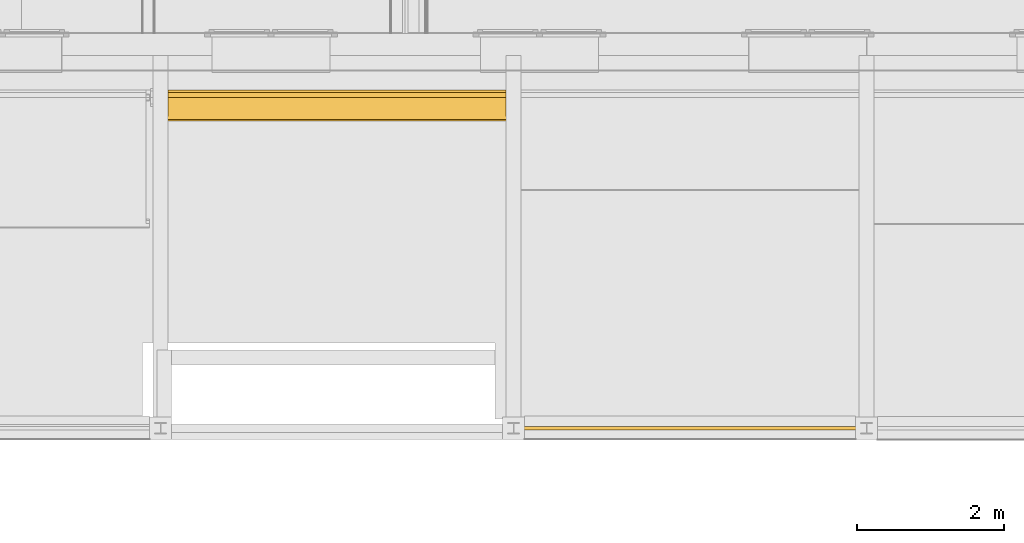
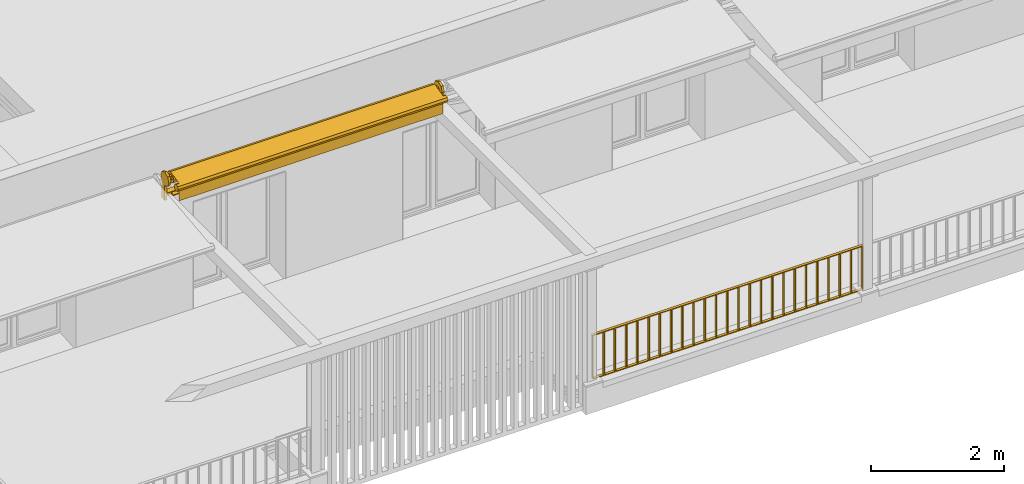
# One storey, part 23 of 36: 1 railing, 1 shading device.
"""IFC4 building model written with IfcOpenShell, lengths in millimetres."""

from ifc_helpers import new_model, entity, si_unit, converted_unit, derived_unit, direction, frame, origin_with_axes, place, context, subcontext, project, spatial, polygons, material, constituent, constituent_set, type_object, element, save


model = new_model("IFC4")

# Units and contexts
model_context = context("Model", 3, precision=0.01, world=origin_with_axes(), true_north=direction((0.0, 1.0)))
body_context = subcontext(model_context, "Body", "Model", "MODEL_VIEW")
ifc_project = project(units=[si_unit("LENGTHUNIT", "METRE", prefix="MILLI"), si_unit("AREAUNIT", "SQUARE_METRE"), si_unit("VOLUMEUNIT", "CUBIC_METRE"), converted_unit("PLANEANGLEUNIT", "DEGREE", entity("IfcPlaneAngleMeasure", 0.0174532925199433), si_unit("PLANEANGLEUNIT", "RADIAN"), dimensions=[0, 0, 0, 0, 0, 0, 0]), converted_unit("TIMEUNIT", "Year", entity("IfcTimeMeasure", 31557600.0), si_unit("TIMEUNIT", "SECOND"), dimensions=[0, 0, 1, 0, 0, 0, 0]), si_unit("MASSUNIT", "GRAM", prefix="KILO"), si_unit("THERMODYNAMICTEMPERATUREUNIT", "DEGREE_CELSIUS"), si_unit("LUMINOUSINTENSITYUNIT", "LUMEN"), si_unit("ENERGYUNIT", "JOULE", prefix="MEGA"), derived_unit("THERMALCONDUCTANCEUNIT", [(si_unit("POWERUNIT", "WATT"), 1), (si_unit("LENGTHUNIT", "METRE"), -1), (si_unit("THERMODYNAMICTEMPERATUREUNIT", "KELVIN"), -1)]), derived_unit("SPECIFICHEATCAPACITYUNIT", [(si_unit("ENERGYUNIT", "JOULE"), 1), (si_unit("MASSUNIT", "GRAM", prefix="KILO"), -1), (si_unit("THERMODYNAMICTEMPERATUREUNIT", "KELVIN"), -1)]), derived_unit("MASSDENSITYUNIT", [(si_unit("MASSUNIT", "GRAM", prefix="KILO"), 1), (si_unit("VOLUMEUNIT", "CUBIC_METRE"), -1)])], contexts=[model_context])

# Site, building, storey
site_placement = place(None, origin_with_axes())
site = spatial("IfcSite", under=ifc_project, at=site_placement, Name="Gelände", CompositionType="ELEMENT")
building_placement = place(site_placement, origin_with_axes())
building = spatial("IfcBuilding", under=site, at=building_placement, Name="Gebäude", CompositionType="ELEMENT")
storey_placement = place(building_placement, frame((0.0, 0.0, 8700.0), z_axis=(0.0, 0.0, 1.0), x_axis=(1.0, 0.0, 0.0)))
storey = spatial("IfcBuildingStorey", under=building, at=storey_placement, Name="Attika", CompositionType="ELEMENT", Elevation=8700.0)

# Railing
ifc_material = material(Name="Stahl")
ifc_constituent_1 = constituent(ifc_material, Name="Stahl 1")
ifc_constituent_2 = constituent(ifc_material, Name="Stahl 2")
ifc_constituent_3 = constituent(ifc_material, Name="Stahl 3")
ifc_constituent_4 = constituent(ifc_material, Name="Stahl 4")
ifc_constituent_5 = constituent(ifc_material, Name="Stahl 5")
ifc_constituent_6 = constituent(ifc_material, Name="Stahl 6")
ifc_constituent_7 = constituent(ifc_material, Name="Stahl 7")
ifc_constituent_8 = constituent(ifc_material, Name="Stahl 8")
ifc_constituent_9 = constituent(ifc_material, Name="Stahl 9")
ifc_constituent_10 = constituent(ifc_material, Name="Stahl 10")
ifc_constituent_11 = constituent(ifc_material, Name="Stahl 11")
ifc_constituent_12 = constituent(ifc_material, Name="Stahl 12")
ifc_constituent_13 = constituent(ifc_material, Name="Stahl 13")
ifc_constituent_14 = constituent(ifc_material, Name="Stahl 14")
ifc_constituent_15 = constituent(ifc_material, Name="Stahl 15")
ifc_constituent_16 = constituent(ifc_material, Name="Stahl 16")
ifc_constituent_17 = constituent(ifc_material, Name="Stahl 17")
ifc_constituent_18 = constituent(ifc_material, Name="Stahl 18")
ifc_constituent_19 = constituent(ifc_material, Name="Stahl 19")
ifc_constituent_20 = constituent(ifc_material, Name="Stahl 20")
ifc_constituent_21 = constituent(ifc_material, Name="Stahl 21")
ifc_constituent_22 = constituent(ifc_material, Name="Stahl 22")
ifc_constituent_23 = constituent(ifc_material, Name="Stahl 23")
ifc_constituent_24 = constituent(ifc_material, Name="Stahl 24")
ifc_constituent_25 = constituent(ifc_material, Name="Stahl 25")
ifc_constituent_26 = constituent(ifc_material, Name="Stahl 26")
ifc_constituent_27 = constituent(ifc_material, Name="Stahl 27")
ifc_constituent_28 = constituent(ifc_material, Name="Stahl 28")
ifc_constituent_29 = constituent(ifc_material, Name="Stahl 29")
ifc_constituent_set = constituent_set(constituents=[ifc_constituent_1, ifc_constituent_2, ifc_constituent_3, ifc_constituent_4, ifc_constituent_5, ifc_constituent_6, ifc_constituent_7, ifc_constituent_8, ifc_constituent_9, ifc_constituent_10, ifc_constituent_11, ifc_constituent_12, ifc_constituent_13, ifc_constituent_14, ifc_constituent_15, ifc_constituent_16, ifc_constituent_17, ifc_constituent_18, ifc_constituent_19, ifc_constituent_20, ifc_constituent_21, ifc_constituent_22, ifc_constituent_23, ifc_constituent_24, ifc_constituent_25, ifc_constituent_26, ifc_constituent_27, ifc_constituent_28, ifc_constituent_29])
railing_type = type_object("IfcRailingType", Name="Geländerart", PredefinedType="NOTDEFINED")
railing_placement = place(storey_placement, frame((5767.336356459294, 21097.59674077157, 519.9999999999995), z_axis=(0.0, 0.0, 1.0), x_axis=(1.0, 0.0, 0.0)))
element("IfcRailing", 1, at=railing_placement, inside=storey, type_object=railing_type, material=ifc_constituent_set, Name="Geländer-003", PredefinedType="NOTDEFINED", context=body_context, shape_type="Tessellation", body=[
    polygons([(196.5594620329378, -19.99999999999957, 0.0), (196.5594620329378, 19.99999999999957, 0.0), (196.5594620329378, 19.99999999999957, 800.0000000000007), (196.5594620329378, -19.99999999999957, 800.0000000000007), (181.5594620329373, -19.99999999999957, 0.0), (181.5594620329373, 19.99999999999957, 0.0), (181.5594620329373, 19.99999999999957, 800.0000000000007), (181.5594620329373, -19.99999999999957, 800.0000000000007)], [[[1, 2, 3, 4]], [[1, 5, 6, 2]], [[2, 6, 7, 3]], [[4, 3, 7, 8]], [[5, 1, 4, 8]], [[6, 5, 8, 7]]], closed=True),
    polygons([(189.0594620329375, 22.50000000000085, 800.0000000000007), (189.0594620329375, 22.50000000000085, 785.0000000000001), (181.5594620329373, 22.50000000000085, 785.0000000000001), (181.5594620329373, 22.50000000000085, 800.0000000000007), (189.0594620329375, -22.50000000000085, 800.0000000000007), (189.0594620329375, -22.50000000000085, 785.0000000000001), (181.5594620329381, -22.50000000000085, 785.0000000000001), (181.5594620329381, -22.50000000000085, 800.0000000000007)], [[[1, 2, 3, 4]], [[1, 5, 6, 2]], [[2, 6, 7, 3]], [[4, 3, 7, 8]], [[5, 1, 4, 8]], [[6, 5, 8, 7]]], closed=True),
    polygons([(4887.359462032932, -19.99999999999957, 0.0), (4887.359462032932, 19.99999999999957, 0.0), (4887.359462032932, 19.99999999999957, 800.0000000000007), (4887.359462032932, -19.99999999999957, 800.0000000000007), (4872.359462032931, -19.99999999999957, 0.0), (4872.359462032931, 19.99999999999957, 0.0), (4872.359462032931, 19.99999999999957, 800.0000000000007), (4872.359462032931, -19.99999999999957, 800.0000000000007)], [[[1, 2, 3, 4]], [[1, 5, 6, 2]], [[2, 6, 7, 3]], [[4, 3, 7, 8]], [[5, 1, 4, 8]], [[6, 5, 8, 7]]], closed=True),
    polygons([(4879.859462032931, -22.50000000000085, 800.0000000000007), (4879.859462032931, -22.50000000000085, 785.0000000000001), (4887.359462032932, -22.50000000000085, 785.0000000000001), (4887.359462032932, -22.50000000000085, 800.0000000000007), (4879.859462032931, 22.50000000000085, 800.0000000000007), (4879.859462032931, 22.50000000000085, 785.0000000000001), (4887.359462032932, 22.50000000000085, 785.0000000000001), (4887.359462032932, 22.50000000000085, 800.0000000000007)], [[[1, 2, 3, 4]], [[1, 5, 6, 2]], [[2, 6, 7, 3]], [[4, 3, 7, 8]], [[5, 1, 4, 8]], [[6, 5, 8, 7]]], closed=True),
    polygons([(189.0594620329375, -22.50000000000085, 0.9999999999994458), (189.0594620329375, -22.50000000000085, -13.99999999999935), (4879.859462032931, -22.50000000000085, -13.99999999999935), (4879.859462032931, -22.50000000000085, 0.9999999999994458), (189.0594620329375, 22.50000000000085, 0.9999999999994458), (189.0594620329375, 22.50000000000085, -13.99999999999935), (4879.859462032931, 22.50000000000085, -13.99999999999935), (4879.859462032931, 22.50000000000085, 0.9999999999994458)], [[[1, 2, 3, 4]], [[1, 5, 6, 2]], [[2, 6, 7, 3]], [[4, 3, 7, 8]], [[5, 1, 4, 8]], [[6, 5, 8, 7]]], closed=True),
    polygons([(189.0594620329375, -22.50000000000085, 800.0000000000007), (189.0594620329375, -22.50000000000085, 785.0000000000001), (4879.859462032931, -22.50000000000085, 785.0000000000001), (4879.859462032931, -22.50000000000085, 800.0000000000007), (189.0594620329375, 22.50000000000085, 800.0000000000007), (189.0594620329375, 22.50000000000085, 785.0000000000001), (4879.859462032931, 22.50000000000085, 785.0000000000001), (4879.859462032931, 22.50000000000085, 800.0000000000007)], [[[1, 2, 3, 4]], [[1, 5, 6, 2]], [[2, 6, 7, 3]], [[4, 3, 7, 8]], [[5, 1, 4, 8]], [[6, 5, 8, 7]]], closed=True),
    polygons([(392.009462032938, -22.50000000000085, 0.0), (392.009462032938, 22.50000000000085, 0.0), (392.009462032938, 22.50000000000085, 785.2293691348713), (392.009462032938, -22.50000000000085, 785.2293691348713), (377.0094620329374, -22.50000000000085, 0.0), (377.0094620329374, 22.50000000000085, 0.0), (377.0094620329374, 22.50000000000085, 785.2293691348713), (377.0094620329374, -22.50000000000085, 785.2293691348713)], [[[1, 2, 3, 4]], [[1, 5, 6, 2]], [[2, 6, 7, 3]], [[4, 3, 7, 8]], [[5, 1, 4, 8]], [[6, 5, 8, 7]]], closed=True),
    polygons([(587.4594620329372, -22.50000000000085, 0.0), (587.4594620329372, 22.50000000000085, 0.0), (587.4594620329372, 22.50000000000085, 785.2293691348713), (587.4594620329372, -22.50000000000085, 785.2293691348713), (572.4594620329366, -22.50000000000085, 0.0), (572.4594620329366, 22.50000000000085, 0.0), (572.4594620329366, 22.50000000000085, 785.2293691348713), (572.4594620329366, -22.50000000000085, 785.2293691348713)], [[[1, 2, 3, 4]], [[1, 5, 6, 2]], [[2, 6, 7, 3]], [[4, 3, 7, 8]], [[5, 1, 4, 8]], [[6, 5, 8, 7]]], closed=True),
    polygons([(782.9094620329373, -22.50000000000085, 0.0), (782.9094620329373, 22.50000000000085, 0.0), (782.9094620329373, 22.50000000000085, 785.2293691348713), (782.9094620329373, -22.50000000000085, 785.2293691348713), (767.9094620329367, -22.50000000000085, 0.0), (767.9094620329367, 22.50000000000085, 0.0), (767.9094620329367, 22.50000000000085, 785.2293691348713), (767.9094620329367, -22.50000000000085, 785.2293691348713)], [[[1, 2, 3, 4]], [[1, 5, 6, 2]], [[2, 6, 7, 3]], [[4, 3, 7, 8]], [[5, 1, 4, 8]], [[6, 5, 8, 7]]], closed=True),
    polygons([(978.3594620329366, -22.50000000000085, 0.0), (978.3594620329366, 22.50000000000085, 0.0), (978.3594620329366, 22.50000000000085, 785.2293691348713), (978.3594620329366, -22.50000000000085, 785.2293691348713), (963.359462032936, -22.50000000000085, 0.0), (963.359462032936, 22.50000000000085, 0.0), (963.359462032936, 22.50000000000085, 785.2293691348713), (963.359462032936, -22.50000000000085, 785.2293691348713)], [[[1, 2, 3, 4]], [[1, 5, 6, 2]], [[2, 6, 7, 3]], [[4, 3, 7, 8]], [[5, 1, 4, 8]], [[6, 5, 8, 7]]], closed=True),
    polygons([(1173.809462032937, -22.50000000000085, 0.0), (1173.809462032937, 22.50000000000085, 0.0), (1173.809462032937, 22.50000000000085, 785.2293691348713), (1173.809462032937, -22.50000000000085, 785.2293691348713), (1158.809462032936, -22.50000000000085, 0.0), (1158.809462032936, 22.50000000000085, 0.0), (1158.809462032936, 22.50000000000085, 785.2293691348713), (1158.809462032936, -22.50000000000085, 785.2293691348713)], [[[1, 2, 3, 4]], [[1, 5, 6, 2]], [[2, 6, 7, 3]], [[4, 3, 7, 8]], [[5, 1, 4, 8]], [[6, 5, 8, 7]]], closed=True),
    polygons([(1369.259462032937, -22.50000000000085, 0.0), (1369.259462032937, 22.50000000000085, 0.0), (1369.259462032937, 22.50000000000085, 785.2293691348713), (1369.259462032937, -22.50000000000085, 785.2293691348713), (1354.259462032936, -22.50000000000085, 0.0), (1354.259462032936, 22.50000000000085, 0.0), (1354.259462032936, 22.50000000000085, 785.2293691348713), (1354.259462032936, -22.50000000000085, 785.2293691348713)], [[[1, 2, 3, 4]], [[1, 5, 6, 2]], [[2, 6, 7, 3]], [[4, 3, 7, 8]], [[5, 1, 4, 8]], [[6, 5, 8, 7]]], closed=True),
    polygons([(1564.709462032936, -22.50000000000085, 0.0), (1564.709462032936, 22.50000000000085, 0.0), (1564.709462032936, 22.50000000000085, 785.2293691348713), (1564.709462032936, -22.50000000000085, 785.2293691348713), (1549.709462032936, -22.50000000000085, 0.0), (1549.709462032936, 22.50000000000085, 0.0), (1549.709462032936, 22.50000000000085, 785.2293691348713), (1549.709462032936, -22.50000000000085, 785.2293691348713)], [[[1, 2, 3, 4]], [[1, 5, 6, 2]], [[2, 6, 7, 3]], [[4, 3, 7, 8]], [[5, 1, 4, 8]], [[6, 5, 8, 7]]], closed=True),
    polygons([(1760.159462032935, -22.50000000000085, 0.0), (1760.159462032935, 22.50000000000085, 0.0), (1760.159462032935, 22.50000000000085, 785.2293691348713), (1760.159462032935, -22.50000000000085, 785.2293691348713), (1745.159462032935, -22.50000000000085, 0.0), (1745.159462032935, 22.50000000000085, 0.0), (1745.159462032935, 22.50000000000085, 785.2293691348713), (1745.159462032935, -22.50000000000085, 785.2293691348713)], [[[1, 2, 3, 4]], [[1, 5, 6, 2]], [[2, 6, 7, 3]], [[4, 3, 7, 8]], [[5, 1, 4, 8]], [[6, 5, 8, 7]]], closed=True),
    polygons([(1955.609462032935, -22.50000000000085, 0.0), (1955.609462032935, 22.50000000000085, 0.0), (1955.609462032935, 22.50000000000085, 785.2293691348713), (1955.609462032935, -22.50000000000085, 785.2293691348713), (1940.609462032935, -22.50000000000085, 0.0), (1940.609462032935, 22.50000000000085, 0.0), (1940.609462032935, 22.50000000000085, 785.2293691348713), (1940.609462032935, -22.50000000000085, 785.2293691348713)], [[[1, 2, 3, 4]], [[1, 5, 6, 2]], [[2, 6, 7, 3]], [[4, 3, 7, 8]], [[5, 1, 4, 8]], [[6, 5, 8, 7]]], closed=True),
    polygons([(2151.059462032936, -22.50000000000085, 0.0), (2151.059462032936, 22.50000000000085, 0.0), (2151.059462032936, 22.50000000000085, 785.2293691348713), (2151.059462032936, -22.50000000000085, 785.2293691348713), (2136.059462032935, -22.50000000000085, 0.0), (2136.059462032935, 22.50000000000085, 0.0), (2136.059462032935, 22.50000000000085, 785.2293691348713), (2136.059462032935, -22.50000000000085, 785.2293691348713)], [[[1, 2, 3, 4]], [[1, 5, 6, 2]], [[2, 6, 7, 3]], [[4, 3, 7, 8]], [[5, 1, 4, 8]], [[6, 5, 8, 7]]], closed=True),
    polygons([(2346.509462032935, -22.50000000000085, 0.0), (2346.509462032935, 22.50000000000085, 0.0), (2346.509462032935, 22.50000000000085, 785.2293691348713), (2346.509462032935, -22.50000000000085, 785.2293691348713), (2331.509462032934, -22.50000000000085, 0.0), (2331.509462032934, 22.50000000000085, 0.0), (2331.509462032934, 22.50000000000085, 785.2293691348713), (2331.509462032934, -22.50000000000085, 785.2293691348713)], [[[1, 2, 3, 4]], [[1, 5, 6, 2]], [[2, 6, 7, 3]], [[4, 3, 7, 8]], [[5, 1, 4, 8]], [[6, 5, 8, 7]]], closed=True),
    polygons([(2541.959462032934, -22.50000000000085, 0.0), (2541.959462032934, 22.50000000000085, 0.0), (2541.959462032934, 22.50000000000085, 785.2293691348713), (2541.959462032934, -22.50000000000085, 785.2293691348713), (2526.959462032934, -22.50000000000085, 0.0), (2526.959462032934, 22.50000000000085, 0.0), (2526.959462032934, 22.50000000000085, 785.2293691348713), (2526.959462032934, -22.50000000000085, 785.2293691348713)], [[[1, 2, 3, 4]], [[1, 5, 6, 2]], [[2, 6, 7, 3]], [[4, 3, 7, 8]], [[5, 1, 4, 8]], [[6, 5, 8, 7]]], closed=True),
    polygons([(2737.409462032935, -22.50000000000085, 0.0), (2737.409462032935, 22.50000000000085, 0.0), (2737.409462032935, 22.50000000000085, 785.2293691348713), (2737.409462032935, -22.50000000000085, 785.2293691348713), (2722.409462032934, -22.50000000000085, 0.0), (2722.409462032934, 22.50000000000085, 0.0), (2722.409462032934, 22.50000000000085, 785.2293691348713), (2722.409462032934, -22.50000000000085, 785.2293691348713)], [[[1, 2, 3, 4]], [[1, 5, 6, 2]], [[2, 6, 7, 3]], [[4, 3, 7, 8]], [[5, 1, 4, 8]], [[6, 5, 8, 7]]], closed=True),
    polygons([(2932.859462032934, -22.50000000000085, 0.0), (2932.859462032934, 22.50000000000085, 0.0), (2932.859462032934, 22.50000000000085, 785.2293691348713), (2932.859462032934, -22.50000000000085, 785.2293691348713), (2917.859462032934, -22.50000000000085, 0.0), (2917.859462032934, 22.50000000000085, 0.0), (2917.859462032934, 22.50000000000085, 785.2293691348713), (2917.859462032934, -22.50000000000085, 785.2293691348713)], [[[1, 2, 3, 4]], [[1, 5, 6, 2]], [[2, 6, 7, 3]], [[4, 3, 7, 8]], [[5, 1, 4, 8]], [[6, 5, 8, 7]]], closed=True),
    polygons([(3128.309462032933, -22.50000000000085, 0.0), (3128.309462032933, 22.50000000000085, 0.0), (3128.309462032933, 22.50000000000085, 785.2293691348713), (3128.309462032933, -22.50000000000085, 785.2293691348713), (3113.309462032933, -22.50000000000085, 0.0), (3113.309462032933, 22.50000000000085, 0.0), (3113.309462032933, 22.50000000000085, 785.2293691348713), (3113.309462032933, -22.50000000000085, 785.2293691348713)], [[[1, 2, 3, 4]], [[1, 5, 6, 2]], [[2, 6, 7, 3]], [[4, 3, 7, 8]], [[5, 1, 4, 8]], [[6, 5, 8, 7]]], closed=True),
    polygons([(3323.759462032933, -22.50000000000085, 0.0), (3323.759462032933, 22.50000000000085, 0.0), (3323.759462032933, 22.50000000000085, 785.2293691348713), (3323.759462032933, -22.50000000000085, 785.2293691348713), (3308.759462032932, -22.50000000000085, 0.0), (3308.759462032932, 22.50000000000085, 0.0), (3308.759462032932, 22.50000000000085, 785.2293691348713), (3308.759462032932, -22.50000000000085, 785.2293691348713)], [[[1, 2, 3, 4]], [[1, 5, 6, 2]], [[2, 6, 7, 3]], [[4, 3, 7, 8]], [[5, 1, 4, 8]], [[6, 5, 8, 7]]], closed=True),
    polygons([(3519.209462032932, -22.50000000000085, 0.0), (3519.209462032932, 22.50000000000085, 0.0), (3519.209462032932, 22.50000000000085, 785.2293691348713), (3519.209462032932, -22.50000000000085, 785.2293691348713), (3504.209462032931, -22.50000000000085, 0.0), (3504.209462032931, 22.50000000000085, 0.0), (3504.209462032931, 22.50000000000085, 785.2293691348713), (3504.209462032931, -22.50000000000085, 785.2293691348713)], [[[1, 2, 3, 4]], [[1, 5, 6, 2]], [[2, 6, 7, 3]], [[4, 3, 7, 8]], [[5, 1, 4, 8]], [[6, 5, 8, 7]]], closed=True),
    polygons([(3714.659462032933, -22.50000000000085, 0.0), (3714.659462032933, 22.50000000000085, 0.0), (3714.659462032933, 22.50000000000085, 785.2293691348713), (3714.659462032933, -22.50000000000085, 785.2293691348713), (3699.659462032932, -22.50000000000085, 0.0), (3699.659462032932, 22.50000000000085, 0.0), (3699.659462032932, 22.50000000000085, 785.2293691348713), (3699.659462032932, -22.50000000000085, 785.2293691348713)], [[[1, 2, 3, 4]], [[1, 5, 6, 2]], [[2, 6, 7, 3]], [[4, 3, 7, 8]], [[5, 1, 4, 8]], [[6, 5, 8, 7]]], closed=True),
    polygons([(3910.109462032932, -22.50000000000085, 0.0), (3910.109462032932, 22.50000000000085, 0.0), (3910.109462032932, 22.50000000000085, 785.2293691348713), (3910.109462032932, -22.50000000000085, 785.2293691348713), (3895.109462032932, -22.50000000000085, 0.0), (3895.109462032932, 22.50000000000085, 0.0), (3895.109462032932, 22.50000000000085, 785.2293691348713), (3895.109462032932, -22.50000000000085, 785.2293691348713)], [[[1, 2, 3, 4]], [[1, 5, 6, 2]], [[2, 6, 7, 3]], [[4, 3, 7, 8]], [[5, 1, 4, 8]], [[6, 5, 8, 7]]], closed=True),
    polygons([(4105.559462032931, -22.50000000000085, 0.0), (4105.559462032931, 22.50000000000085, 0.0), (4105.559462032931, 22.50000000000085, 785.2293691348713), (4105.559462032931, -22.50000000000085, 785.2293691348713), (4090.559462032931, -22.50000000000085, 0.0), (4090.559462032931, 22.50000000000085, 0.0), (4090.559462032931, 22.50000000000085, 785.2293691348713), (4090.559462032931, -22.50000000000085, 785.2293691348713)], [[[1, 2, 3, 4]], [[1, 5, 6, 2]], [[2, 6, 7, 3]], [[4, 3, 7, 8]], [[5, 1, 4, 8]], [[6, 5, 8, 7]]], closed=True),
    polygons([(4301.009462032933, -22.50000000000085, 0.0), (4301.009462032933, 22.50000000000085, 0.0), (4301.009462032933, 22.50000000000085, 785.2293691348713), (4301.009462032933, -22.50000000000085, 785.2293691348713), (4286.009462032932, -22.50000000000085, 0.0), (4286.009462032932, 22.50000000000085, 0.0), (4286.009462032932, 22.50000000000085, 785.2293691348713), (4286.009462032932, -22.50000000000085, 785.2293691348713)], [[[1, 2, 3, 4]], [[1, 5, 6, 2]], [[2, 6, 7, 3]], [[4, 3, 7, 8]], [[5, 1, 4, 8]], [[6, 5, 8, 7]]], closed=True),
    polygons([(4496.459462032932, -22.50000000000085, 0.0), (4496.459462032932, 22.50000000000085, 0.0), (4496.459462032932, 22.50000000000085, 785.2293691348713), (4496.459462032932, -22.50000000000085, 785.2293691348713), (4481.459462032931, -22.50000000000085, 0.0), (4481.459462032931, 22.50000000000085, 0.0), (4481.459462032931, 22.50000000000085, 785.2293691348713), (4481.459462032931, -22.50000000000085, 785.2293691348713)], [[[1, 2, 3, 4]], [[1, 5, 6, 2]], [[2, 6, 7, 3]], [[4, 3, 7, 8]], [[5, 1, 4, 8]], [[6, 5, 8, 7]]], closed=True),
    polygons([(4691.909462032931, -22.50000000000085, 0.0), (4691.909462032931, 22.50000000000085, 0.0), (4691.909462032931, 22.50000000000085, 785.2293691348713), (4691.909462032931, -22.50000000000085, 785.2293691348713), (4676.909462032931, -22.50000000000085, 0.0), (4676.909462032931, 22.50000000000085, 0.0), (4676.909462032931, 22.50000000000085, 785.2293691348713), (4676.909462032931, -22.50000000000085, 785.2293691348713)], [[[1, 2, 3, 4]], [[1, 5, 6, 2]], [[2, 6, 7, 3]], [[4, 3, 7, 8]], [[5, 1, 4, 8]], [[6, 5, 8, 7]]], closed=True),
])

# Shading device
shading_device_type = type_object("IfcShadingDeviceType", Name="Sonnensegel 27", PredefinedType="NOTDEFINED")
shading_device_placement = place(storey_placement, frame((1115.595818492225, 25686.08652644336, 2849.999999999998), z_axis=(0.0, 0.0, 1.0), x_axis=(1.0, 0.0, 0.0)))
element("IfcShadingDevice", 2, at=shading_device_placement, inside=storey, type_object=shading_device_type, Name="Möbel-018", PredefinedType="NOTDEFINED", context=body_context, shape_type="Tessellation", body=[
    polygons([(4740.79999999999, -135.3553390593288, 335.3553390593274), (50.0, -135.3553390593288, 335.3553390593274), (50.0, -150.0000000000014, 300.0), (4740.79999999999, -150.0000000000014, 300.0), (4740.79999999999, -100.0000000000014, 350.0), (50.0, -100.0000000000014, 350.0), (50.0, -64.64466094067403, 335.3553390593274), (50.0, -50.00000000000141, 300.0), (50.0, -64.64466094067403, 264.6446609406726), (50.0, -100.0000000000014, 250.0), (50.0, -135.3553390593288, 264.6446609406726), (4740.79999999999, -135.3553390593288, 264.6446609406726), (4740.79999999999, -100.0000000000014, 250.0), (4740.79999999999, -64.64466094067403, 264.6446609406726), (4740.79999999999, -50.00000000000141, 300.0), (4740.79999999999, -64.64466094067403, 335.3553390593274)], [[[1, 2, 3, 4]], [[5, 6, 2, 1]], [[3, 2, 6, 7, 8, 9, 10, 11]], [[4, 3, 11, 12]], [[4, 12, 13, 14, 15, 16, 5, 1]], [[16, 7, 6, 5]], [[15, 8, 7, 16]], [[14, 9, 8, 15]], [[13, 10, 9, 14]], [[12, 11, 10, 13]]], closed=True),
    polygons([(4690.79999999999, -170.7106781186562, 370.7106781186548), (100.0, -170.7106781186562, 370.7106781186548), (100.0, -200.0000000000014, 300.0), (4690.79999999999, -200.0000000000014, 300.0), (4690.79999999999, -100.0000000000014, 400.0), (100.0, -100.0000000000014, 400.0), (100.0, -29.28932188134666, 370.7106781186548), (100.0, 0.0, 300.0), (100.0, -29.28932188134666, 229.2893218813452), (100.0, -100.0000000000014, 199.9999999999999), (100.0, -170.7106781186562, 229.2893218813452), (4690.79999999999, -170.7106781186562, 229.2893218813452), (4690.79999999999, -100.0000000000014, 199.9999999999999), (4690.79999999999, -29.28932188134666, 229.2893218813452), (4690.79999999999, 0.0, 300.0), (4690.79999999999, -29.28932188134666, 370.7106781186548)], [[[1, 2, 3, 4]], [[5, 6, 2, 1]], [[3, 2, 6, 7, 8, 9, 10, 11]], [[4, 3, 11, 12]], [[4, 12, 13, 14, 15, 16, 5, 1]], [[16, 7, 6, 5]], [[15, 8, 7, 16]], [[14, 9, 8, 15]], [[13, 10, 9, 14]], [[12, 11, 10, 13]]], closed=True),
    polygons([(4690.79999999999, -124.1463404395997, 397.0409925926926), (4690.79999999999, -374.4413876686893, 334.7610296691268), (100.0, -374.4413876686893, 334.7610296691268), (100.0, -124.1463404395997, 397.0409925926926)], [[[1, 2, 3, 4]]], closed=False),
    polygons([(4690.79999999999, -359.0106215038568, 337.3395068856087), (4690.79999999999, -359.0106215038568, 17.3395068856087), (100.0, -359.0106215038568, 17.3395068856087), (100.0, -359.0106215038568, 337.3395068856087)], [[[1, 2, 3, 4]]], closed=False),
    polygons([(50.0, -316.5842146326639, 234.9131000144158), (50.00000000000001, -359.0106215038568, 217.3395068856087), (50.0, -401.4370283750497, 234.9131000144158), (50.0, -419.0106215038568, 277.3395068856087), (50.0, -401.4370283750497, 319.7659137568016), (49.99999999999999, -359.0106215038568, 337.3395068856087), (50.0, -316.5842146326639, 319.7659137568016), (50.0, -299.0106215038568, 277.3395068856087), (4740.799999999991, -316.5842146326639, 234.9131000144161), (4740.799999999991, -359.0106215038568, 217.339506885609), (4740.799999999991, -401.4370283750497, 234.9131000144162), (4740.799999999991, -419.0106215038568, 277.339506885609), (4740.799999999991, -401.4370283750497, 319.7659137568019), (4740.799999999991, -359.0106215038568, 337.339506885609), (4740.799999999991, -316.5842146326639, 319.7659137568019), (4740.799999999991, -299.0106215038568, 277.339506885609)], [[[1, 2, 3, 4, 5, 6, 7, 8]], [[1, 9, 10, 2]], [[2, 10, 11, 3]], [[3, 11, 12, 4]], [[4, 12, 13, 5]], [[5, 13, 14, 6]], [[6, 14, 15, 7]], [[7, 15, 16, 8]], [[8, 16, 9, 1]], [[9, 16, 15, 14, 13, 12, 11, 10]]], closed=True),
    polygons([(4750.799999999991, 0.0, -25.0), (4750.799999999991, -100.0000000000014, -25.0), (40.0, -100.0000000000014, -25.0), (40.0, 0.0, -25.0), (4750.799999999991, 0.0, 25.0), (4750.799999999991, -100.0000000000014, 25.0), (40.0, -100.0000000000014, 25.0), (40.0, 0.0, 25.0)], [[[1, 2, 3, 4]], [[1, 5, 6, 2]], [[2, 6, 7, 3]], [[3, 7, 8, 4]], [[4, 8, 5, 1]], [[8, 7, 6, 5]]], closed=True),
    polygons([(4693.080961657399, -139.5143068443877, 45.22701438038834), (2830.215053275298, -239.0196175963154, 183.896767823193), (2830.215053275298, -279.6430838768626, 154.7465707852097), (4693.080961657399, -180.1377731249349, 16.0768173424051), (4688.519038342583, -110.4856931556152, 4.772985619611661), (2825.653129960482, -209.9910039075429, 143.4427390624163), (2825.653129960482, -250.61447018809, 114.292542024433), (4688.519038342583, -151.1091594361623, -24.37721141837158)], [[[1, 2, 3, 4]], [[5, 6, 2, 1]], [[2, 6, 7, 3]], [[4, 3, 7, 8]], [[1, 4, 8, 5]], [[8, 7, 6, 5]]], closed=True),
    polygons([(102.2809616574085, -110.4856931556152, 4.772985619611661), (1965.14687003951, -209.9910039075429, 143.4427390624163), (1965.14687003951, -250.61447018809, 114.292542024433), (102.2809616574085, -151.1091594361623, -24.37721141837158), (97.71903834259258, -139.5143068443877, 45.22701438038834), (1960.584946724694, -239.0196175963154, 183.896767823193), (1960.584946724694, -279.6430838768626, 154.7465707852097), (97.71903834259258, -180.1377731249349, 16.0768173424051)], [[[1, 2, 3, 4]], [[5, 6, 2, 1]], [[2, 6, 7, 3]], [[4, 3, 7, 8]], [[1, 4, 8, 5]], [[8, 7, 6, 5]]], closed=True),
    polygons([(1965.14687003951, -239.0196175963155, 183.8967678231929), (102.2809616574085, -338.5249283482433, 322.5665212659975), (102.2809616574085, -379.1483946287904, 293.4163242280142), (1965.14687003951, -279.6430838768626, 154.7465707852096), (1960.584946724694, -209.991003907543, 143.4427390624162), (97.71903834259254, -309.4963146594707, 282.1124925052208), (97.71903834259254, -350.1197809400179, 252.9622954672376), (1960.584946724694, -250.6144701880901, 114.2925420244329)], [[[1, 2, 3, 4]], [[5, 6, 2, 1]], [[2, 6, 7, 3]], [[4, 3, 7, 8]], [[1, 4, 8, 5]], [[8, 7, 6, 5]]], closed=True),
    polygons([(2830.215053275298, -209.991003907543, 143.4427390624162), (4693.080961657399, -309.4963146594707, 282.1124925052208), (4693.080961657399, -350.1197809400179, 252.9622954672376), (2830.215053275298, -250.6144701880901, 114.2925420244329), (2825.653129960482, -239.0196175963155, 183.8967678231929), (4688.519038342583, -338.5249283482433, 322.5665212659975), (4688.519038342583, -379.1483946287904, 293.4163242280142), (2825.653129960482, -279.6430838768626, 154.7465707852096)], [[[1, 2, 3, 4]], [[5, 6, 2, 1]], [[2, 6, 7, 3]], [[4, 3, 7, 8]], [[1, 4, 8, 5]], [[8, 7, 6, 5]]], closed=True),
    polygons([(0.0, -100.0000000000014, -100.0), (40.00000000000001, -100.0000000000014, -100.0), (39.99999999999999, -100.0000000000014, 175.0), (0.0, -100.0000000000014, 175.0), (0.0, 0.0, -100.0), (40.0, 0.0, -100.0), (39.99999999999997, 0.0, 300.0000000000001), (39.99999999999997, 24.99999999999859, 300.0000000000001), (39.99999999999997, -11.61165235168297, 388.3883476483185), (39.99999999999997, -100.0000000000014, 425.0000000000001), (39.99999999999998, -188.3883476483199, 388.3883476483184), (39.99999999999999, -225.0000000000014, 300.0000000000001), (39.99999999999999, -188.3883476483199, 211.6116523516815), (0.0, -188.3883476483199, 211.6116523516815), (0.0, -225.0000000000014, 300.0000000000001), (0.0, -188.3883476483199, 388.3883476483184), (0.0, -100.0000000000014, 425.0000000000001), (0.0, -11.61165235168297, 388.3883476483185), (0.0, 24.99999999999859, 300.0000000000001), (0.0, 0.0, 300.0000000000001)], [[[1, 2, 3, 4]], [[5, 6, 2, 1]], [[2, 6, 7, 8, 9, 10, 11, 12, 13, 3]], [[4, 3, 13, 14]], [[1, 4, 14, 15, 16, 17, 18, 19, 20, 5]], [[20, 7, 6, 5]], [[19, 8, 7, 20]], [[18, 9, 8, 19]], [[17, 10, 9, 18]], [[16, 11, 10, 17]], [[15, 12, 11, 16]], [[14, 13, 12, 15]]], closed=True),
    polygons([(4750.799999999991, -100.0000000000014, -100.0), (4790.799999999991, -100.0000000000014, -100.0), (4790.799999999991, -100.0000000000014, 175.0), (4750.799999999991, -100.0000000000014, 175.0), (4750.799999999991, 0.0, -100.0), (4790.799999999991, 0.0, -100.0), (4790.799999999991, 0.0, 300.0000000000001), (4790.799999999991, 24.99999999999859, 300.0000000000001), (4790.799999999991, -11.61165235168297, 388.3883476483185), (4790.799999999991, -100.0000000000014, 425.0000000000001), (4790.799999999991, -188.3883476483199, 388.3883476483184), (4790.799999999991, -225.0000000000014, 300.0000000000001), (4790.799999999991, -188.3883476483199, 211.6116523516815), (4750.799999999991, -188.3883476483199, 211.6116523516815), (4750.799999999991, -225.0000000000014, 300.0000000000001), (4750.799999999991, -188.3883476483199, 388.3883476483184), (4750.799999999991, -100.0000000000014, 425.0000000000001), (4750.799999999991, -11.61165235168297, 388.3883476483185), (4750.799999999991, 24.99999999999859, 300.0000000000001), (4750.799999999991, 0.0, 300.0000000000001)], [[[1, 2, 3, 4]], [[5, 6, 2, 1]], [[2, 6, 7, 8, 9, 10, 11, 12, 13, 3]], [[4, 3, 13, 14]], [[1, 4, 14, 15, 16, 17, 18, 19, 20, 5]], [[20, 7, 6, 5]], [[19, 8, 7, 20]], [[18, 9, 8, 19]], [[17, 10, 9, 18]], [[16, 11, 10, 17]], [[15, 12, 11, 16]], [[14, 13, 12, 15]]], closed=True),
])

save(model, "model.ifc")
